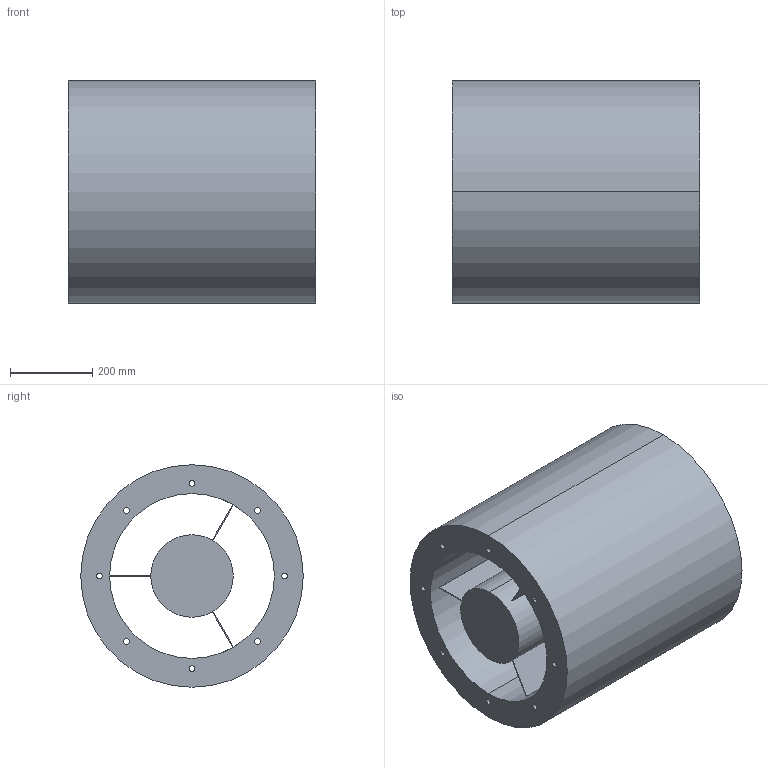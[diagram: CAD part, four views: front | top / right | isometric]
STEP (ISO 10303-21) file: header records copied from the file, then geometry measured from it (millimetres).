
FILE_DESCRIPTION(('STEP AP214'),'1');
FILE_NAME('accessory_5211813400.stp','2017-10-09T11:38:03',('TraceParts'),('TraceParts S.A.'),'Spatial InterOp 3D',' ',' ');
FILE_SCHEMA(('automotive_design'));
Length unit declared in the file: millimetre
Products named in the file (1): accessory_5211813400
Bounding box: 600 x 540 x 540 mm (x, y, z)
Volume: 78313172.9 mm3; surface area: 2834976.1 mm2
Topology: 1 solids, 1 shells, 40 faces, 107 edges, 71 vertices
Faces by surface type: cylinder 22, plane 16, torus 2
Entity records: 1664 total; most frequent: DIRECTION 250, CARTESIAN_POINT 219, ORIENTED_EDGE 214, EDGE_CURVE 107, AXIS2_PLACEMENT_3D 102, VERTEX_POINT 71, EDGE_LOOP 64, CIRCLE 61
